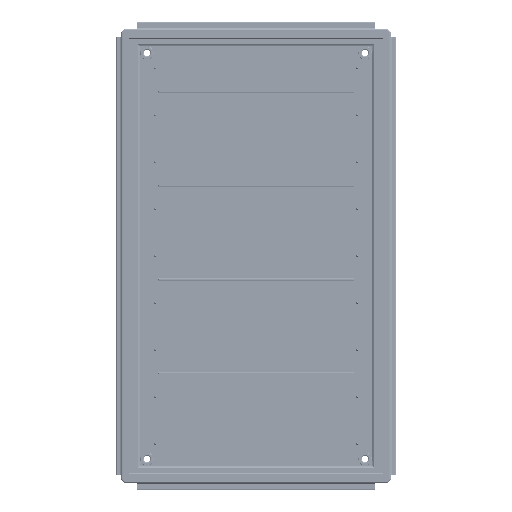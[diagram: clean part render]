
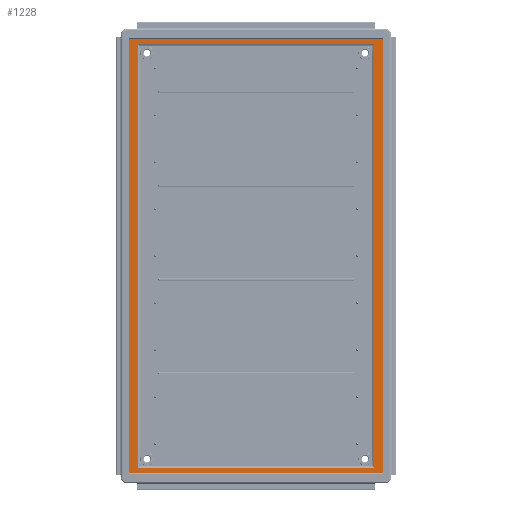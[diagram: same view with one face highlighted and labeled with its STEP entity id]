
A CAD part, front view. The second image highlights one B-rep face of the part: STEP entity #1228.
In plain terms, the highlighted planar face has unit normal (0, -1, 0).
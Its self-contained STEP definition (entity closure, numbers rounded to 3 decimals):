
#1228=ADVANCED_FACE('',(#40117,#40119),#40121,.T.);
#40117=FACE_BOUND('',#40118,.T.);
#40118=EDGE_LOOP('',(#122569,#122570,#122571,#122572));
#40119=FACE_BOUND('',#40120,.T.);
#40120=EDGE_LOOP('',(#122573,#122574,#122575,#122576));
#40121=PLANE('',#40122);
#40122=AXIS2_PLACEMENT_3D('',#40123,#40124,#40125);
#40123=CARTESIAN_POINT('',(-359.9,1.,-20.899));
#40124=DIRECTION('',(0.,-1.,0.));
#40125=DIRECTION('',(0.,0.,-1.));
#122569=ORIENTED_EDGE('',*,*,#170803,.F.);
#122570=ORIENTED_EDGE('',*,*,#170804,.T.);
#122571=ORIENTED_EDGE('',*,*,#170805,.T.);
#122572=ORIENTED_EDGE('',*,*,#170806,.F.);
#122573=ORIENTED_EDGE('',*,*,#170807,.T.);
#122574=ORIENTED_EDGE('',*,*,#170808,.T.);
#122575=ORIENTED_EDGE('',*,*,#170809,.F.);
#122576=ORIENTED_EDGE('',*,*,#170810,.T.);
#170803=EDGE_CURVE('',#196062,#196063,#196064,.T.);
#170804=EDGE_CURVE('',#196062,#196065,#196066,.T.);
#170805=EDGE_CURVE('',#196065,#196067,#196068,.T.);
#170806=EDGE_CURVE('',#196063,#196067,#196069,.T.);
#170807=EDGE_CURVE('',#196070,#196071,#196072,.T.);
#170808=EDGE_CURVE('',#196071,#196073,#196074,.T.);
#170809=EDGE_CURVE('',#196075,#196073,#196076,.T.);
#170810=EDGE_CURVE('',#196075,#196070,#196077,.T.);
#196062=VERTEX_POINT('',#239992);
#196063=VERTEX_POINT('',#239993);
#196064=LINE('',#239994,#239995);
#196065=VERTEX_POINT('',#239997);
#196066=LINE('',#239998,#239999);
#196067=VERTEX_POINT('',#240001);
#196068=LINE('',#240002,#240003);
#196069=LINE('',#240005,#240006);
#196070=VERTEX_POINT('',#240008);
#196071=VERTEX_POINT('',#240009);
#196072=LINE('',#240010,#240011);
#196073=VERTEX_POINT('',#240013);
#196074=LINE('',#240014,#240015);
#196075=VERTEX_POINT('',#240017);
#196076=LINE('',#240018,#240019);
#196077=LINE('',#240021,#240022);
#239992=CARTESIAN_POINT('',(-382.591,1.,-20.899));
#239993=CARTESIAN_POINT('',(157.591,1.,-20.899));
#239994=CARTESIAN_POINT('',(-382.591,1.,-20.899));
#239995=VECTOR('',#239996,1.);
#239996=DIRECTION('',(1.,0.,0.));
#239997=CARTESIAN_POINT('',(-382.591,1.,-947.101));
#239998=CARTESIAN_POINT('',(-382.591,1.,-20.899));
#239999=VECTOR('',#240000,1.);
#240000=DIRECTION('',(0.,0.,-1.));
#240001=CARTESIAN_POINT('',(157.591,1.,-947.101));
#240002=CARTESIAN_POINT('',(-382.591,1.,-947.101));
#240003=VECTOR('',#240004,1.);
#240004=DIRECTION('',(1.,0.,0.));
#240005=CARTESIAN_POINT('',(157.591,1.,-20.899));
#240006=VECTOR('',#240007,1.);
#240007=DIRECTION('',(0.,0.,-1.));
#240008=CARTESIAN_POINT('',(-364.6,1.,-31.9));
#240009=CARTESIAN_POINT('',(139.6,1.,-31.9));
#240010=CARTESIAN_POINT('',(-364.6,1.,-31.9));
#240011=VECTOR('',#240012,1.);
#240012=DIRECTION('',(1.,0.,0.));
#240013=CARTESIAN_POINT('',(139.6,1.,-936.1));
#240014=CARTESIAN_POINT('',(139.6,1.,-31.9));
#240015=VECTOR('',#240016,1.);
#240016=DIRECTION('',(0.,0.,-1.));
#240017=CARTESIAN_POINT('',(-364.6,1.,-936.1));
#240018=CARTESIAN_POINT('',(-364.6,1.,-936.1));
#240019=VECTOR('',#240020,1.);
#240020=DIRECTION('',(1.,0.,0.));
#240021=CARTESIAN_POINT('',(-364.6,1.,-936.1));
#240022=VECTOR('',#240023,1.);
#240023=DIRECTION('',(0.,0.,1.));
